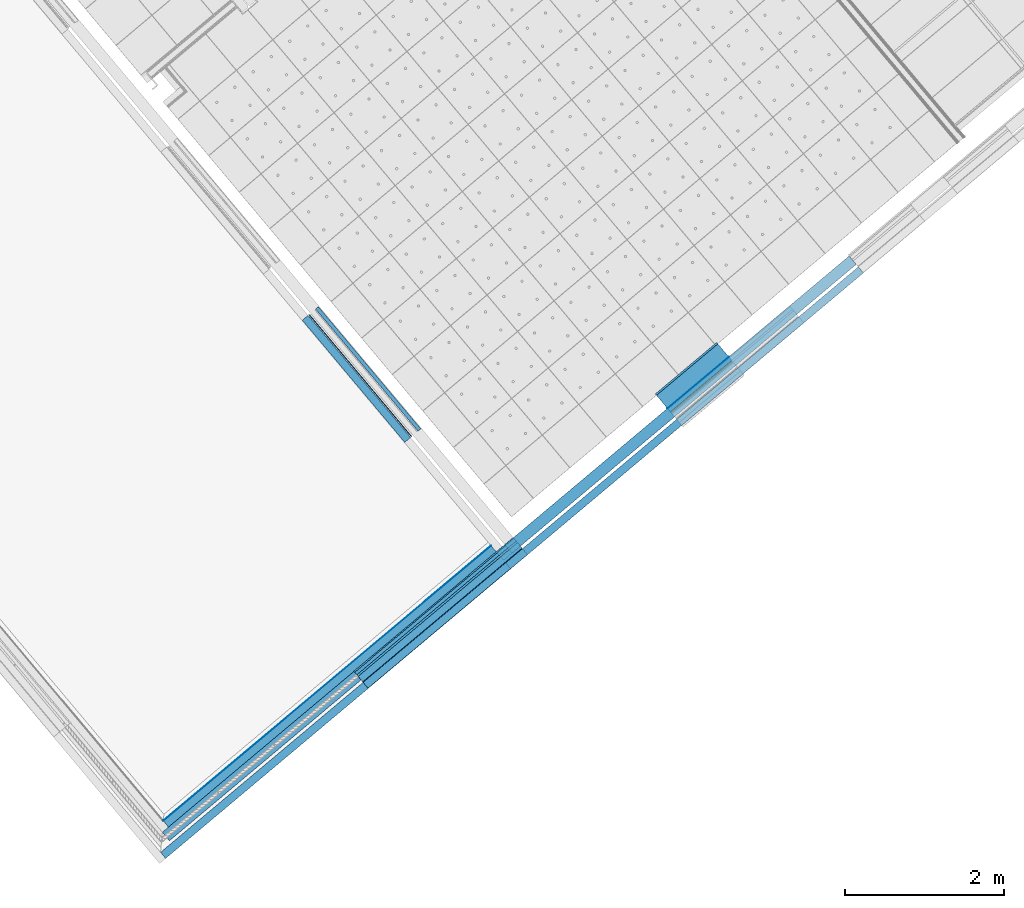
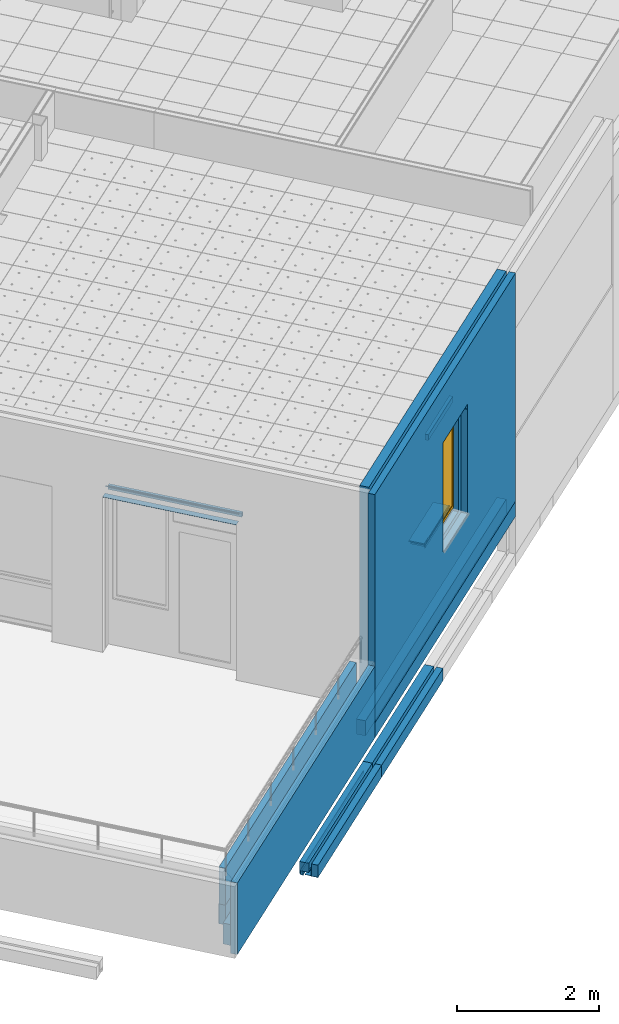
# One storey, part 50 of 321: 25 building element parts, 1 window, 1 opening, 8 elements without a shape of their own.
"""IFC2X3 building model written with IfcOpenShell, lengths in millimetres."""

from ifc_helpers import new_model, entity, si_unit, converted_unit, derived_unit, money_unit, direction, frame, origin_with_axes, place, context, subcontext, project, spatial, open_shell, faceted_brep, surface_model, material, type_object, element, fill, aggregate, save


model = new_model("IFC2X3")

# Units and contexts
model_context = context("Model", 3, precision=0.01, world=origin_with_axes(), true_north=direction((0.0, 1.0)))
plan_context = context("Plan", 3, precision=0.01, world=origin_with_axes(), true_north=direction((0.0, 1.0)))
body_context = subcontext(model_context, "Body", "Model", "MODEL_VIEW")
ifc_project = project(units=[si_unit("LENGTHUNIT", "METRE", prefix="MILLI"), si_unit("AREAUNIT", "SQUARE_METRE"), si_unit("VOLUMEUNIT", "CUBIC_METRE"), converted_unit("PLANEANGLEUNIT", "DEGREE", entity("IfcPlaneAngleMeasure", 0.0174532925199), si_unit("PLANEANGLEUNIT", "RADIAN"), dimensions=[0, 0, 0, 0, 0, 0, 0]), money_unit("EUR"), converted_unit("TIMEUNIT", "Year", entity("IfcTimeMeasure", 31556926.0), si_unit("TIMEUNIT", "SECOND"), dimensions=[0, 0, 1, 0, 0, 0, 0]), si_unit("MASSUNIT", "GRAM", prefix="KILO"), si_unit("THERMODYNAMICTEMPERATUREUNIT", "DEGREE_CELSIUS"), si_unit("LUMINOUSINTENSITYUNIT", "LUMEN"), si_unit("ENERGYUNIT", "JOULE", prefix="MEGA"), derived_unit("THERMALCONDUCTANCEUNIT", [(si_unit("POWERUNIT", "WATT"), 1), (si_unit("LENGTHUNIT", "METRE"), -1), (si_unit("THERMODYNAMICTEMPERATUREUNIT", "KELVIN"), -1)]), derived_unit("SPECIFICHEATCAPACITYUNIT", [(si_unit("ENERGYUNIT", "JOULE"), 1), (si_unit("MASSUNIT", "GRAM", prefix="KILO"), -1), (si_unit("THERMODYNAMICTEMPERATUREUNIT", "KELVIN"), -1)]), derived_unit("MASSDENSITYUNIT", [(si_unit("MASSUNIT", "GRAM", prefix="KILO"), 1), (si_unit("VOLUMEUNIT", "CUBIC_METRE"), -1)])], contexts=[model_context, plan_context])

# Site, building, storey
site_placement = place(None, origin_with_axes())
site = spatial("IfcSite", under=ifc_project, at=site_placement, Name="Fortuinstraat Woensdrecht", CompositionType="ELEMENT")
building_placement = place(site_placement, origin_with_axes())
building = spatial("IfcBuilding", under=site, at=building_placement, Name="IKC Fortuna", CompositionType="ELEMENT")
storey_placement = place(building_placement, frame((0.0, 0.0, 4000.0), z_axis=(0.0, 0.0, 1.0), x_axis=(1.0, 0.0, 0.0)))
storey = spatial("IfcBuildingStorey", under=building, at=storey_placement, Name="01 eerste verdieping", CompositionType="ELEMENT", Elevation=4000.0)

# Window
window_style = type_object("IfcWindowStyle", Name="R1 25", ConstructionType="NOTDEFINED", OperationType="SINGLE_PANEL", ParameterTakesPrecedence=False, Sizeable=False)
wall_1_placement = place(storey_placement, frame((18518.9533731, -13085.7240957, 1360.0), z_axis=(0.0, 0.0, 1.0), x_axis=(0.766044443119, 0.642787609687, 0.0)))
opening_placement = place(wall_1_placement, frame((3040.31656627, 0.0, 1157.49998868), z_axis=(0.0, 0.0, 1.0), x_axis=(1.0, 0.0, 0.0)))
window_placement = place(opening_placement, frame((-500.0, 0.0, 0.0), z_axis=(0.0, 0.0, 1.0), x_axis=(1.0, 0.0, 0.0)))
window = element("IfcWindow", 1, at=window_placement, inside=storey, type_object=window_style, Name="31_Raam_A.15", ObjectType="WINDOW", OverallHeight=1817.5, OverallWidth=1000.0, context=body_context, shape_type="SurfaceModel", body=[
    faceted_brep([(48.0, -73.0, 1769.50001132), (48.0, 0.0, 1769.50001132), (0.0, 0.0, 1769.50001132), (0.0, -73.0, 1769.50001132), (48.0, -73.0, 48.0), (48.0, 0.0, 48.0), (0.0, 0.0, 48.0), (0.0, -73.0, 48.0)], [[[0, 1, 2, 3]], [[4, 5, 1, 0]], [[1, 5, 6, 2]], [[3, 2, 6, 7]], [[0, 3, 7, 4]], [[7, 6, 5, 4]]]),
    faceted_brep([(952.0, -73.0, 48.0), (952.0, 0.0, 48.0), (1000.0, 0.0, 48.0), (1000.0, -73.0, 48.0), (952.0, -73.0, 1769.50001132), (952.0, 0.0, 1769.50001132), (1000.0, 0.0, 1769.50001132), (1000.0, -73.0, 1769.50001132)], [[[0, 1, 2, 3]], [[4, 5, 1, 0]], [[1, 5, 6, 2]], [[3, 2, 6, 7]], [[0, 3, 7, 4]], [[7, 6, 5, 4]]]),
    faceted_brep([(48.0, -73.0, 48.0), (48.0, 0.0, 48.0), (0.0, 0.0, 48.0), (0.0, -73.0, 48.0), (952.0, -73.0, 48.0), (952.0, 0.0, 48.0), (1000.0, 0.0, 48.0), (1000.0, 0.0, 0.0), (0.0, 0.0, 0.0), (0.0, -73.0, 0.0), (1000.0, -73.0, 0.0), (1000.0, -73.0, 48.0)], [[[0, 1, 2, 3]], [[4, 5, 1, 0]], [[1, 5, 6, 7, 8, 2]], [[3, 2, 8, 9]], [[0, 3, 9, 10, 11, 4]], [[11, 6, 5, 4]], [[10, 7, 6, 11]], [[9, 8, 7, 10]]]),
    faceted_brep([(952.0, -73.0, 1769.50001132), (952.0, 0.0, 1769.50001132), (1000.0, 0.0, 1769.50001132), (1000.0, -73.0, 1769.50001132), (48.0, -73.0, 1769.50001132), (48.0, 0.0, 1769.50001132), (0.0, 0.0, 1769.50001132), (0.0, 0.0, 1817.50001132), (1000.0, 0.0, 1817.50001132), (1000.0, -73.0, 1817.50001132), (0.0, -73.0, 1817.50001132), (0.0, -73.0, 1769.50001132)], [[[0, 1, 2, 3]], [[4, 5, 1, 0]], [[1, 5, 6, 7, 8, 2]], [[3, 2, 8, 9]], [[0, 3, 9, 10, 11, 4]], [[11, 6, 5, 4]], [[10, 7, 6, 11]], [[9, 8, 7, 10]]]),
    surface_model("IfcShellBasedSurfaceModel", [(48.0, -62.0, 48.0), (952.0, -62.0, 48.0), (952.0, -62.0, 1769.50001132), (48.0, -62.0, 1769.50001132)], [open_shell([[[0, 1, 2, 3]]])]),
    surface_model("IfcShellBasedSurfaceModel", [(48.0, -42.0, 48.0), (48.0, -42.0, 1769.50001132), (952.0, -42.0, 1769.50001132), (952.0, -42.0, 48.0)], [open_shell([[[0, 1, 2, 3]]])]),
])

# Wall, opening
wall_type = type_object("IfcWallType", Name="21 MW hoofd 280", PredefinedType="NOTDEFINED")
wall_1 = element("IfcWall", 2, at=wall_1_placement, inside=storey, type_object=wall_type, Name="21_Wand_Vezel Cement Plaat")
opening = element("IfcOpeningElement", 3, at=opening_placement, cuts=wall_1, Name="31_Raam_A.15", context=body_context, shape_type="Brep", body=[
    faceted_brep([(505.0, -280.0, 1817.50001132), (505.0, -280.0, -70.0), (505.0, 560.0, -70.0), (505.0, 560.0, 1817.50001132), (-505.0, -280.0, 1817.50001132), (-505.0, -280.0, -70.0), (-505.0, 560.0, -70.0), (-505.0, 560.0, 1817.50001132)], [[[0, 1, 2, 3]], [[0, 4, 5, 1]], [[1, 5, 6, 2]], [[3, 2, 6, 7]], [[4, 0, 3, 7]], [[5, 4, 7, 6]]]),
])

fill(opening, window)

# Building element part
ifc_material_1 = material(Name="ALG - ISOLATIE")
building_element_part_1_placement = place(wall_1_placement, origin_with_axes())
building_element_part_1 = element("IfcBuildingElementPart", 4, at=building_element_part_1_placement, material=ifc_material_1, Name="ALG - ISOLATIE", context=body_context, shape_type="Brep", body=[
    faceted_brep([(-140.0, 0.0, 0.0), (-140.0, 0.0, 3930.0), (5525.31656627, 0.0, 3930.0), (5525.31656627, 0.0, 0.0), (2535.31656627, 0.0, 1087.49998868), (3545.31656627, 0.0, 1087.49998868), (3545.31656627, 0.0, 2975.0), (2535.31656627, 0.0, 2975.0), (-140.0, -140.0, 0.0), (-140.0, -140.0, 3930.0), (5525.31656627, -140.0, 3930.0), (5525.31656627, -140.0, 0.0), (2535.31656627, -140.0, 1087.49998868), (3545.31656627, -140.0, 1087.49998868), (3545.31656627, -140.0, 2975.0), (2535.31656627, -140.0, 2975.0)], [[[0, 1, 2, 3], [4, 5, 6, 7]], [[1, 0, 8, 9]], [[1, 9, 10, 2]], [[10, 11, 3, 2]], [[8, 0, 3, 11]], [[12, 13, 5, 4]], [[13, 14, 6, 5]], [[14, 15, 7, 6]], [[15, 12, 4, 7]], [[8, 11, 10, 9], [12, 15, 14, 13]]]),
])

ifc_material_2 = material(Name="Steen - Baksteen Hoofd")
building_element_part_2_placement = place(wall_1_placement, origin_with_axes())
building_element_part_2 = element("IfcBuildingElementPart", 5, at=building_element_part_2_placement, material=ifc_material_2, Name="Steen - Baksteen Hoofd", context=body_context, shape_type="Brep", body=[
    faceted_brep([(3545.31656627, -269.999999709, 2880.0), (3545.31656627, -269.999999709, 2884.0), (3684.99998867, -269.999999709, 2884.0), (3684.99998867, -269.999999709, 2880.0), (3545.31656627, -280.0, 1087.49998868), (3545.31656627, -280.0, 2975.0), (3545.31656627, -180.0, 2975.0), (3545.31656627, -179.999999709, 2902.0), (3545.31656627, -183.514718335, 2893.51471863), (3545.31656627, -191.999999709, 2890.0), (3545.31656627, -263.999999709, 2890.0), (3545.31656627, -268.242640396, 2888.24264069), (3545.31656627, -180.0, 2880.0), (3545.31656627, -180.0, 1087.49998868), (3684.99998867, -268.242640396, 2888.24264069), (3684.99998867, -263.999999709, 2890.0), (3684.99998867, -191.999999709, 2890.0), (3684.99998867, -183.514718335, 2893.51471863), (3684.99998867, -179.999999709, 2902.0), (3684.99998867, -180.0, 2880.0), (-279.999987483, -280.0, 3930.0), (-280.000004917, -280.0, 0.0), (5525.31656627, -280.0, 0.0), (5525.31656627, -280.0, 3930.0), (2535.31656627, -280.0, 1087.49998868), (2535.31656627, -280.0, 2975.0), (2535.31656627, -180.0, 2975.0), (5525.31656627, -180.0, 0.0), (-280.000004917, -180.0, 0.0), (-279.999987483, -180.0, 3930.0), (5525.31656627, -180.0, 3930.0), (2535.31656627, -179.999999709, 2902.0), (2396.99998867, -179.999999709, 2902.0), (2396.99998867, -180.0, 2880.0), (2535.31656627, -180.0, 2880.0), (2535.31656627, -180.0, 1087.49998868), (2535.31656627, -269.999999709, 2880.0), (2535.31656627, -269.999999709, 2884.0), (2535.31656627, -268.242640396, 2888.24264069), (2535.31656627, -263.999999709, 2890.0), (2535.31656627, -191.999999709, 2890.0), (2535.31656627, -183.514718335, 2893.51471863), (2396.99998867, -183.514718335, 2893.51471863), (2396.99998867, -268.242640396, 2888.24264069), (2396.99998867, -269.999999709, 2884.0), (2396.99998867, -269.999999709, 2880.0), (2396.99998867, -191.999999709, 2890.0), (2396.99998867, -263.999999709, 2890.0)], [[[0, 1, 2, 3]], [[4, 5, 6, 7, 8, 9, 10, 11, 1, 0, 12, 13]], [[1, 11, 14, 2]], [[15, 16, 17, 18, 19, 3, 2, 14]], [[12, 0, 3, 19]], [[20, 21, 22, 23], [24, 25, 5, 4]], [[5, 25, 26, 6]], [[27, 28, 29, 30], [13, 12, 19, 18, 7, 6, 26, 31, 32, 33, 34, 35]], [[8, 7, 18, 17]], [[9, 8, 17, 16]], [[10, 9, 16, 15]], [[11, 10, 15, 14]], [[24, 4, 13, 35]], [[20, 29, 28, 21]], [[22, 21, 28, 27]], [[23, 22, 27, 30]], [[30, 29, 20, 23]], [[25, 24, 35, 34, 36, 37, 38, 39, 40, 41, 31, 26]], [[31, 41, 42, 32]], [[43, 44, 45, 33, 32, 42, 46, 47]], [[36, 34, 33, 45]], [[37, 36, 45, 44]], [[38, 37, 44, 43]], [[39, 38, 43, 47]], [[40, 39, 47, 46]], [[41, 40, 46, 42]]]),
])

aggregate(wall_1, [building_element_part_1, building_element_part_2])

# Covering, building element parts
covering_type_1 = type_object("IfcCoveringType", Name="41 Waterslag MW 545 x 90", PredefinedType="NOTDEFINED")
covering_1_placement = place(storey_placement, frame((20551.1088054, -11563.3002421, 2522.49999925), z_axis=(0.0, 0.0, 1.0), x_axis=(0.766044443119, 0.642787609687, 0.0)))
covering_1 = element("IfcCovering", 6, at=covering_1_placement, inside=storey, type_object=covering_type_1, Name="41_Afwerking_Waterslag", PredefinedType="NOTDEFINED")
ifc_material_3 = material(Name="Steen - Natuursteen AFW")
building_element_part_3_placement = place(covering_1_placement, origin_with_axes())
building_element_part_3 = element("IfcBuildingElementPart", 7, at=building_element_part_3_placement, material=ifc_material_3, Name="Steen - Natuursteen AFW", context=body_context, shape_type="Brep", body=[
    faceted_brep([(1010.0, 353.999999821, -20.0000025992), (1010.0, 140.0, -20.0), (0.0, 140.0, -20.0), (0.0, 353.999999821, -20.0000025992), (1010.0, 378.0, -20.0), (1010.0, 378.0, 0.0), (1010.0, 140.0, 0.0), (0.0, 140.0, 0.0), (0.0, 378.0, 0.0), (0.0, 378.0, -20.0)], [[[0, 1, 2, 3]], [[0, 4, 5, 6, 1]], [[1, 6, 7, 2]], [[3, 2, 7, 8, 9]], [[4, 0, 3, 9]], [[5, 4, 9, 8]], [[6, 5, 8, 7]]]),
])
ifc_material_4 = material(Name="Cement")
building_element_part_4_placement = place(covering_1_placement, origin_with_axes())
building_element_part_4 = element("IfcBuildingElementPart", 8, at=building_element_part_4_placement, material=ifc_material_4, Name="Cement", context=body_context, shape_type="Brep", body=[
    faceted_brep([(1010.0, 353.999999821, -50.0000002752), (1010.0, 140.000000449, -50.0000002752), (0.0, 140.000000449, -50.0000002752), (0.0, 353.999999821, -50.0000002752), (1010.0, 353.999999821, -20.0000025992), (1010.0, 140.000000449, -19.9999992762), (0.0, 140.000000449, -19.9999992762), (0.0, 353.999999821, -20.0000025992)], [[[0, 1, 2, 3]], [[0, 4, 5, 1]], [[1, 5, 6, 2]], [[3, 2, 6, 7]], [[4, 0, 3, 7]], [[5, 4, 7, 6]]]),
])
ifc_material_5 = material(Name="Kit")
building_element_part_5_placement = place(covering_1_placement, origin_with_axes())
building_element_part_5 = element("IfcBuildingElementPart", 9, at=building_element_part_5_placement, material=ifc_material_5, Name="Kit", context=body_context, shape_type="Brep", body=[
    faceted_brep([(1010.0, 140.000000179, 2.53320919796e-07), (1010.0, 140.000000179, -19.9999998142), (0.0, 140.000000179, -19.9999998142), (0.0, 140.000000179, 2.53320919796e-07), (1010.0, 131.000000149, 2.53320919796e-07), (1010.0, 131.000000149, -4.99999976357), (1010.0, 131.000000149, -19.9999998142), (0.0, 131.000000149, -19.9999998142), (0.0, 131.000000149, -4.99999976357), (0.0, 131.000000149, 2.53320919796e-07)], [[[0, 1, 2, 3]], [[0, 4, 5, 6, 1]], [[1, 6, 7, 2]], [[3, 2, 7, 8, 9]], [[4, 0, 3, 9]], [[5, 4, 9, 8]], [[6, 5, 8, 7]]]),
])
ifc_material_6 = material(Name="Isolatie - PUR gespoten")
building_element_part_6_placement = place(covering_1_placement, origin_with_axes())
building_element_part_6 = element("IfcBuildingElementPart", 10, at=building_element_part_6_placement, material=ifc_material_6, Name="Isolatie - PUR gespoten", context=body_context, shape_type="Brep", body=[
    faceted_brep([(1010.0, 140.000000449, -50.0000002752), (1010.0, 139.999999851, -75.0), (0.0, 139.999999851, -75.0), (0.0, 140.000000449, -50.0000002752), (1010.0, 139.999999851, -19.999999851), (1010.0, 131.000000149, -19.999999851), (1010.0, 131.000000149, -75.0), (0.0, 131.000000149, -75.0), (0.0, 131.000000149, -19.999999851), (0.0, 139.999999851, -19.999999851)], [[[0, 1, 2, 3]], [[0, 4, 5, 6, 1]], [[1, 6, 7, 2]], [[3, 2, 7, 8, 9]], [[4, 0, 3, 9]], [[5, 4, 9, 8]], [[6, 5, 8, 7]]]),
])
ifc_material_7 = material(Name="Hout AFW")
building_element_part_7_placement = place(covering_1_placement, origin_with_axes())
building_element_part_7 = element("IfcBuildingElementPart", 11, at=building_element_part_7_placement, material=ifc_material_7, Name="Hout AFW", context=body_context, shape_type="Brep", body=[
    faceted_brep([(1010.0, 131.0, -75.0), (1010.0, 83.0, -75.0), (0.0, 83.0, -75.0), (0.0, 131.0, -75.0), (1010.0, 131.0, -5.0), (1010.0, 83.0, -5.0), (1010.0, 82.9963036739, -16.4250305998), (1010.0, 82.9963036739, -16.8314231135), (0.0, 82.9963036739, -16.8314231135), (0.0, 82.9963036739, -16.4250305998), (0.0, 83.0, -5.0), (0.0, 131.0, -5.0)], [[[0, 1, 2, 3]], [[0, 4, 5, 6, 7, 1]], [[1, 7, 8, 2]], [[3, 2, 8, 9, 10, 11]], [[4, 0, 3, 11]], [[5, 4, 11, 10]], [[6, 5, 10, 9]], [[7, 6, 9, 8]]]),
])
aggregate(covering_1, [building_element_part_3, building_element_part_4, building_element_part_5, building_element_part_6, building_element_part_7])

covering_type_2 = type_object("IfcCoveringType", Name="41 Rollaag 280 x 210", PredefinedType="NOTDEFINED")
covering_2_placement = place(storey_placement, frame((20551.1088054, -11563.3002421, 237.5), z_axis=(0.0, 0.0, 1.0), x_axis=(-0.766044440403, -0.642787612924, 0.0)))
covering_2 = element("IfcCovering", 12, at=covering_2_placement, inside=storey, type_object=covering_type_2, Name="41_Afwerking_Rollaag", PredefinedType="NOTDEFINED")
ifc_material_8 = material(Name="Steen - Baksteen Accent Rollaag")
building_element_part_8_placement = place(covering_2_placement, origin_with_axes())
building_element_part_8 = element("IfcBuildingElementPart", 13, at=building_element_part_8_placement, material=ifc_material_8, Name="Steen - Baksteen Accent Rollaag", context=body_context, shape_type="Brep", body=[
    faceted_brep([(0.0, 40.0, 2.49999999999), (0.0, 128.934515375, 2.49999999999), (0.0, 128.934515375, 6.5), (0.0, 127.177156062, 10.7426406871), (0.0, 122.934515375, 12.5), (0.0, 50.9345153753, 12.5), (0.0, 42.449234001, 16.0147186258), (0.0, 40.0, 21.9276925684), (0.0, 40.0, 210.0), (0.0, 140.0, 210.0), (0.0, 140.0, 0.0), (0.0, 40.0, 0.0), (138.316577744, 40.0, 2.49999999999), (138.31657812, 128.934514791, 2.49999999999), (138.31657812, 128.934514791, 6.5), (138.316578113, 127.177155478, 10.7426406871), (138.316578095, 122.934514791, 12.5), (138.31657779, 50.9345147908, 12.5), (138.316577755, 42.4492334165, 16.0147186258), (138.316577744, 40.0, 21.9276911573), (2535.31656627, 40.0, 0.0), (2535.31656627, 40.0, 210.0), (2535.31656627, 140.0, 210.0), (2535.31656627, 140.0, 0.0)], [[[0, 1, 2, 3, 4, 5, 6, 7, 8, 9, 10, 11]], [[1, 0, 12, 13]], [[2, 1, 13, 14]], [[3, 2, 14, 15]], [[4, 3, 15, 16]], [[5, 4, 16, 17]], [[6, 5, 17, 18]], [[7, 6, 18, 19]], [[12, 0, 11, 20, 21, 8, 7, 19]], [[8, 21, 22, 9]], [[9, 22, 23, 10]], [[10, 23, 20, 11]], [[12, 19, 18, 17, 16, 15, 14, 13]], [[21, 20, 23, 22]]]),
])
building_element_part_9_placement = place(covering_2_placement, origin_with_axes())
building_element_part_9 = element("IfcBuildingElementPart", 14, at=building_element_part_9_placement, material=ifc_material_1, Name="ALG - ISOLATIE", context=body_context, shape_type="Brep", body=[
    faceted_brep([(0.0, 0.0, 0.0), (2535.31656627, 0.0, 0.0), (2535.31656627, -140.0, 0.0), (0.0, -140.0, 0.0), (0.0, 0.0, 210.0), (2535.31656627, 0.0, 210.0), (2535.31656627, -140.0, 210.0), (0.0, -140.0, 210.0)], [[[0, 1, 2, 3]], [[4, 5, 1, 0]], [[2, 1, 5, 6]], [[3, 2, 6, 7]], [[4, 0, 3, 7]], [[7, 6, 5, 4]]]),
])
aggregate(covering_2, [building_element_part_8, building_element_part_9])

covering_type_3 = type_object("IfcCoveringType", Name="41 Latei MW rollaag 280 x 227", PredefinedType="NOTDEFINED")
covering_3_placement = place(storey_placement, frame((18608.9436387, -13192.9703172, 237.5), z_axis=(0.0, 0.0, 1.0), x_axis=(-0.766044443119, -0.642787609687, 0.0)))
covering_3 = element("IfcCovering", 15, at=covering_3_placement, inside=storey, type_object=covering_type_3, Name="41_Afwerking_Latei + rollaag", PredefinedType="NOTDEFINED")
ifc_material_9 = material(Name="Metaal - Staal C")
building_element_part_10_placement = place(covering_3_placement, origin_with_axes())
building_element_part_10 = element("IfcBuildingElementPart", 16, at=building_element_part_10_placement, material=ifc_material_9, Name="Metaal - Staal C", context=body_context, shape_type="Brep", body=[
    faceted_brep([(287.000011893, 32.0, 4.0), (287.000011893, 32.0, 105.0), (0.0, 32.0, 105.0), (0.0, 32.0, 4.0), (287.000011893, 36.6213203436, 2.49999999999), (287.000011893, 36.0000000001, 3.99999999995), (287.000011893, 36.0000000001, 106.530733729), (287.000011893, 28.9345153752, 113.654953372), (287.000011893, 28.9345153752, 108.065484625), (287.000011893, 32.0, 2.49999999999), (2573.00001189, 28.9345153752, 108.065484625), (2573.00001189, 32.0, 105.0), (2622.21786802, 32.0, 105.0), (2622.21786802, 18.0000000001, 119.0), (0.0, 18.0000000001, 119.0), (0.0, 136.0, -4.07767729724), (0.0, 135.215535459, -8.0), (0.0, 115.215535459, -4.0), (0.0, 36.0, -4.0), (0.0, 33.1715728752, -2.82842712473), (0.0, 32.0, 0.0), (0.0, 20.8284271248, 121.828427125), (0.0, 36.0000000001, 106.530733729), (0.0, 36.0000000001, 3.99999999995), (0.0, 37.1715728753, 1.17157287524), (0.0, 40.0, 0.0), (0.0, 115.609685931, 0.0), (2622.21786802, 32.0, 0.0), (2622.21786802, 32.0, 4.0), (2573.00001189, 32.0, 4.0), (2573.00001189, 32.0, 2.49999999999), (2573.00001189, 36.6213203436, 2.49999999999), (2573.00001189, 36.0000000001, 3.99999999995), (2622.21786802, 36.0000000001, 3.99999999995), (2622.21786802, 37.1715728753, 1.17157287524), (2622.21786802, 20.8284271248, 121.828427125), (2622.21786802, 36.0000000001, 106.530733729), (2573.00001189, 36.0000000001, 106.530733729), (2573.00001189, 28.9345153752, 113.654953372), (2622.21786802, 115.215535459, -4.0), (2622.21786802, 135.215535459, -8.0), (2622.21786802, 136.0, -4.07767729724), (2622.21786802, 115.609685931, 0.0), (2622.21786802, 40.0, 0.0), (2622.21786802, 33.1715728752, -2.82842712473), (2622.21786802, 36.0, -4.0)], [[[0, 1, 2, 3]], [[4, 5, 6, 7, 8, 1, 0, 9]], [[10, 11, 12, 13, 14, 2, 1, 8]], [[15, 16, 17, 18, 19, 20, 3, 2, 14, 21, 22, 23, 24, 25, 26]], [[9, 0, 3, 20, 27, 28, 29, 30]], [[31, 32, 33, 34, 24, 23, 5, 4]], [[6, 5, 23, 22]], [[7, 6, 22, 21, 35, 36, 37, 38]], [[7, 38, 10, 8]], [[31, 4, 9, 30]], [[32, 31, 30, 29, 11, 10, 38, 37]], [[11, 29, 28, 12]], [[39, 40, 41, 42, 43, 34, 33, 36, 35, 13, 12, 28, 27, 44, 45]], [[14, 13, 35, 21]], [[15, 41, 40, 16]], [[16, 40, 39, 17]], [[17, 39, 45, 18]], [[18, 45, 44, 19]], [[19, 44, 27, 20]], [[24, 34, 43, 25]], [[25, 43, 42, 26]], [[26, 42, 41, 15]], [[32, 37, 36, 33]]]),
])
building_element_part_11_placement = place(covering_3_placement, origin_with_axes())
building_element_part_11 = element("IfcBuildingElementPart", 17, at=building_element_part_11_placement, material=ifc_material_8, Name="Steen - Baksteen Accent Rollaag", context=body_context, shape_type="Brep", body=[
    faceted_brep([(0.0, 40.0, 0.0), (2622.21786802, 40.0, 0.0), (2622.21786802, 40.0, 210.0), (0.0, 40.0, 210.0), (2573.00001189, 40.0, 2.49999999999), (287.000011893, 40.0, 2.49999999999), (287.000011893, 40.0, 21.9276925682), (2573.00001189, 40.0, 21.9276925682), (0.0, 115.609685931, 0.0), (2622.21786802, 115.609685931, 0.0), (2622.21786802, 140.0, 0.0), (2622.21786802, 140.0, 210.0), (0.0, 140.0, 210.0), (0.0, 140.0, 0.0), (2573.00001189, 128.934515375, 2.49999999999), (287.000011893, 128.934515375, 2.49999999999), (287.000011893, 128.934515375, 6.5), (287.000011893, 127.177156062, 10.7426406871), (287.000011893, 122.934515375, 12.5), (287.000011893, 50.9345153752, 12.5), (287.000011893, 42.449234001, 16.0147186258), (2573.00001189, 42.449234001, 16.0147186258), (2573.00001189, 50.9345153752, 12.5), (2573.00001189, 122.934515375, 12.5), (2573.00001189, 127.177156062, 10.7426406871), (2573.00001189, 128.934515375, 6.5)], [[[0, 1, 2, 3], [4, 5, 6, 7]], [[8, 9, 1, 0]], [[10, 11, 2, 1, 9]], [[3, 2, 11, 12]], [[3, 12, 13, 8, 0]], [[5, 4, 14, 15]], [[6, 5, 15, 16, 17, 18, 19, 20]], [[7, 6, 20, 21]], [[4, 7, 21, 22, 23, 24, 25, 14]], [[13, 10, 9, 8]], [[12, 11, 10, 13]], [[25, 16, 15, 14]], [[24, 17, 16, 25]], [[23, 18, 17, 24]], [[22, 19, 18, 23]], [[21, 20, 19, 22]]]),
])
ifc_material_10 = material(Name="Metaal - Staal AFW")
building_element_part_12_placement = place(covering_3_placement, origin_with_axes())
building_element_part_12 = element("IfcBuildingElementPart", 18, at=building_element_part_12_placement, material=ifc_material_10, Name="Metaal - Staal AFW", context=body_context, shape_type="Brep", body=[
    faceted_brep([(2573.00001189, 28.9345153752, 4.00000000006), (287.000011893, 28.9345153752, 4.00000000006), (287.000011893, 32.0, 4.0), (0.0, 32.0, 4.0), (0.0, -58.0, 4.0), (2622.21786802, -58.0, 4.0), (2622.21786802, 32.0, 4.0), (2573.00001189, 32.0, 4.0), (2573.00001189, 28.9345153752, 2.49999999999), (287.000011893, 28.9345153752, 2.49999999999), (287.000011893, 32.0, 2.49999999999), (2573.00001189, 32.0, 2.49999999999), (2622.21786802, 32.0, 0.0), (0.0, 32.0, 0.0), (0.0, -58.0, 0.0), (2622.21786802, -58.0, 0.0)], [[[0, 1, 2, 3, 4, 5, 6, 7]], [[1, 0, 8, 9]], [[10, 2, 1, 9]], [[11, 7, 6, 12, 13, 3, 2, 10]], [[4, 3, 13, 14]], [[14, 15, 5, 4]], [[12, 6, 5, 15]], [[0, 7, 11, 8]], [[11, 10, 9, 8]], [[13, 12, 15, 14]]]),
])
building_element_part_13_placement = place(covering_3_placement, origin_with_axes())
building_element_part_13 = element("IfcBuildingElementPart", 19, at=building_element_part_13_placement, material=ifc_material_1, Name="ALG - ISOLATIE", context=body_context, shape_type="Brep", body=[
    faceted_brep([(0.0, -140.0, 53.0), (2622.21786802, -140.0, 53.0), (2622.21786802, -140.0, 210.0), (0.0, -140.0, 210.0), (0.0, -83.9999988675, 53.0000013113), (2622.21786802, -83.9999988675, 53.0000013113), (2622.21786802, 0.0, 53.0), (2622.21786802, 0.0, 210.0), (0.0, 0.0, 210.0), (0.0, 0.0, 53.0)], [[[0, 1, 2, 3]], [[4, 5, 1, 0]], [[2, 1, 5, 6, 7]], [[3, 2, 7, 8]], [[4, 0, 3, 8, 9]], [[9, 6, 5, 4]], [[8, 7, 6, 9]]]),
])
building_element_part_14_placement = place(covering_3_placement, origin_with_axes())
building_element_part_14 = element("IfcBuildingElementPart", 20, at=building_element_part_14_placement, material=ifc_material_7, Name="Hout AFW", context=body_context, shape_type="Brep", body=[
    faceted_brep([(0.0, -127.999998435, 53.0000013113), (2622.21786802, -127.999998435, 53.0000013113), (2622.21786802, -83.9999988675, 53.0000013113), (0.0, -83.9999988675, 53.0000013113), (0.0, -127.999998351, -1.28576260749e-07), (2622.21786802, -127.999998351, -1.28576260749e-07), (2622.21786802, -127.999998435, -17.0), (2622.21786802, -83.9999988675, -17.0), (0.0, -83.9999988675, -17.0), (0.0, -127.999998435, -17.0)], [[[0, 1, 2, 3]], [[4, 5, 1, 0]], [[2, 1, 5, 6, 7]], [[3, 2, 7, 8]], [[4, 0, 3, 8, 9]], [[9, 6, 5, 4]], [[8, 7, 6, 9]]]),
])
building_element_part_15_placement = place(covering_3_placement, origin_with_axes())
building_element_part_15 = element("IfcBuildingElementPart", 21, at=building_element_part_15_placement, material=ifc_material_6, Name="Isolatie - PUR gespoten", context=body_context, shape_type="Brep", body=[
    faceted_brep([(0.0, -139.999999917, 53.0000002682), (2622.21786802, -139.999999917, 53.0000002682), (2622.21786802, -127.999998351, 53.0000013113), (0.0, -127.999998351, 53.0000013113), (0.0, -139.999999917, -1.28576260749e-07), (2622.21786802, -139.999999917, -1.28576260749e-07), (2622.21786802, -127.999998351, -1.28576260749e-07), (0.0, -127.999998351, -1.28576260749e-07)], [[[0, 1, 2, 3]], [[4, 5, 1, 0]], [[2, 1, 5, 6]], [[3, 2, 6, 7]], [[4, 0, 3, 7]], [[7, 6, 5, 4]]]),
])
aggregate(covering_3, [building_element_part_10, building_element_part_11, building_element_part_12, building_element_part_13, building_element_part_14, building_element_part_15])

# Wall, building element parts
wall_2_placement = place(storey_placement, frame((22931.5719565, -9748.61151215, 1100.0), z_axis=(0.0, 0.0, 1.0), x_axis=(-0.766044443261, -0.642787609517, 0.0)))
wall_2 = element("IfcWall", 22, at=wall_2_placement, inside=storey, type_object=wall_type, Name="21_Wand_Vezel Cement Plaat")
building_element_part_16_placement = place(wall_2_placement, origin_with_axes())
building_element_part_16 = element("IfcBuildingElementPart", 23, at=building_element_part_16_placement, material=ifc_material_2, Name="Steen - Baksteen Hoofd", context=body_context, shape_type="Brep", body=[
    faceted_brep([(5805.31656629, -100.0, 259.999998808), (5805.31656629, 0.0, 259.999998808), (0.0, 0.0, 259.999998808), (0.0, -100.0, 259.999998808), (5805.31656629, -100.0, 0.0), (5805.31656629, 0.0, 0.0), (0.0, 0.0, 0.0), (0.0, -100.0, 0.0)], [[[0, 1, 2, 3]], [[0, 4, 5, 1]], [[1, 5, 6, 2]], [[3, 2, 6, 7]], [[4, 0, 3, 7]], [[5, 4, 7, 6]]]),
])
building_element_part_17_placement = place(wall_2_placement, origin_with_axes())
building_element_part_17 = element("IfcBuildingElementPart", 24, at=building_element_part_17_placement, material=ifc_material_1, Name="ALG - ISOLATIE", context=body_context, shape_type="Brep", body=[
    faceted_brep([(5805.31656629, -280.0, 259.999998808), (5805.31656629, -140.0, 259.999998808), (0.0, -140.0, 259.999998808), (0.0, -280.0, 259.999998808), (5805.31656629, -280.0, 0.0), (5805.31656629, -140.0, 0.0), (0.0, -140.0, 0.0), (0.0, -280.0, 0.0)], [[[0, 1, 2, 3]], [[0, 4, 5, 1]], [[1, 5, 6, 2]], [[3, 2, 6, 7]], [[4, 0, 3, 7]], [[5, 4, 7, 6]]]),
])
aggregate(wall_2, [building_element_part_16, building_element_part_17])

# Covering, building element part
covering_type_4 = type_object("IfcCoveringType", Name="41 Latei MW 275 x 142", PredefinedType="NOTDEFINED")
covering_4_placement = place(storey_placement, frame((20551.1088054, -11563.3002421, 4335.0), z_axis=(0.0, 0.0, 1.0), x_axis=(0.766044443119, 0.642787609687, 0.0)))
covering_4 = element("IfcCovering", 25, at=covering_4_placement, inside=storey, type_object=covering_type_4, Name="41_Afwerking_Waterslag", PredefinedType="NOTDEFINED")
building_element_part_18_placement = place(covering_4_placement, origin_with_axes())
building_element_part_18 = element("IfcBuildingElementPart", 26, at=building_element_part_18_placement, material=ifc_material_7, Name="Hout AFW", context=body_context, shape_type="Brep", body=[
    faceted_brep([(0.0, 135.0, 80.0), (1010.0, 135.0, 80.0), (1010.0, 135.0, -20.0), (0.0, 135.0, -20.0), (0.0, 81.0, 80.0), (1010.0, 81.0, 80.0), (1010.0, 81.0, 0.0), (1010.0, 81.0, -20.0), (0.0, 81.0, -20.0), (0.0, 81.0, 0.0)], [[[0, 1, 2, 3]], [[4, 5, 1, 0]], [[2, 1, 5, 6, 7]], [[3, 2, 7, 8]], [[4, 0, 3, 8, 9]], [[9, 6, 5, 4]], [[8, 7, 6, 9]]]),
])
aggregate(covering_4, [building_element_part_18])

# Covering, building element parts
covering_type_5 = type_object("IfcCoveringType", Name="41 Latei MW zw 269 x 142", PredefinedType="NOTDEFINED")
covering_5_placement = place(storey_placement, frame((15962.6863447, -10257.0850168, 4272.5), z_axis=(0.0, 0.0, 1.0), x_axis=(0.642787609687, -0.766044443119, 0.0)))
covering_5 = element("IfcCovering", 27, at=covering_5_placement, inside=storey, type_object=covering_type_5, Name="41_Afwerking_MW latei", PredefinedType="NOTDEFINED")
building_element_part_19_placement = place(covering_5_placement, origin_with_axes())
building_element_part_19 = element("IfcBuildingElementPart", 28, at=building_element_part_19_placement, material=ifc_material_7, Name="Hout AFW", context=body_context, shape_type="Brep", body=[
    faceted_brep([(0.0, 129.0, -17.0), (2010.0, 129.0, -17.0), (2010.0, 83.0, -17.0), (0.0, 83.0, -17.0), (0.0, 129.0, 53.0), (2010.0, 129.0, 53.0), (2010.0, 83.0, 53.0), (0.0, 83.0, 53.0)], [[[0, 1, 2, 3]], [[4, 5, 1, 0]], [[2, 1, 5, 6]], [[3, 2, 6, 7]], [[4, 0, 3, 7]], [[7, 6, 5, 4]]]),
])
building_element_part_20_placement = place(covering_5_placement, origin_with_axes())
building_element_part_20 = element("IfcBuildingElementPart", 29, at=building_element_part_20_placement, material=ifc_material_10, Name="Metaal - Staal AFW", context=body_context, shape_type="Brep", body=[
    faceted_brep([(2010.0, -40.0000113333, -3.99999994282), (2010.0, -40.0000113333, 0.0), (2010.0, -115.609685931, 0.0), (2010.0, -136.000000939, -4.07767792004), (2010.0, -135.215535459, -8.0), (2010.0, -115.215535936, -3.99999886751), (0.0, -40.0000113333, 0.0), (0.0, -40.0000113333, -3.99999994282), (0.0, -115.609685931, 0.0), (0.0, -136.000000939, -4.07767792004), (0.0, -135.215535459, -8.0), (0.0, -115.215535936, -3.99999886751)], [[[0, 1, 2, 3, 4, 5]], [[6, 1, 0, 7]], [[1, 6, 8, 2]], [[9, 3, 2, 8]], [[10, 4, 3, 9]], [[11, 5, 4, 10]], [[7, 0, 5, 11]], [[6, 7, 11, 10, 9, 8]]]),
    faceted_brep([(0.0, -30.0000113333, 112.580599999), (2010.0, -30.0000113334, 112.580599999), (2010.0, -20.8284271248, 121.828427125), (0.0, -20.8284271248, 121.828427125), (2010.0, -30.0000113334, 106.999988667), (0.0, -30.0000113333, 106.999988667), (2010.0, -18.0000000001, 119.0), (0.0, -18.0000000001, 119.0)], [[[0, 1, 2, 3]], [[4, 1, 0, 5]], [[1, 4, 6, 2]], [[3, 2, 6, 7]], [[5, 0, 3, 7]], [[4, 5, 7, 6]]]),
])
aggregate(covering_5, [building_element_part_19, building_element_part_20])

covering_type_6 = type_object("IfcCoveringType", Name="21 Dakrand terras 386 x 1235", PredefinedType="CLADDING")
covering_6_placement = place(storey_placement, frame((14095.0467052, -16797.8225487, 1300.0), z_axis=(0.0, 0.0, 1.0), x_axis=(0.766044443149, 0.64278760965, 0.0)))
covering_6 = element("IfcCovering", 30, at=covering_6_placement, inside=storey, type_object=covering_type_6, Name="21_Wandafwerking_Dakrand", PredefinedType="CLADDING")
ifc_material_11 = material(Name="Membraan - waterdicht")
building_element_part_21_placement = place(covering_6_placement, origin_with_axes())
building_element_part_21 = element("IfcBuildingElementPart", 31, at=building_element_part_21_placement, material=ifc_material_11, Name="Membraan - waterdicht", context=body_context, shape_type="Brep", body=[
    faceted_brep([(5495.00001133, 105.999998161, 399.999998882), (105.999998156, 105.999998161, 399.999998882), (105.999998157, 100.00000295, 399.999998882), (5495.00001133, 100.00000295, 399.999998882), (105.999998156, 105.999998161, 60.0), (5495.00001133, 105.999998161, 60.0), (105.999998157, 100.00000295, 60.0), (5495.00001133, 100.00000295, 60.0)], [[[0, 1, 2, 3]], [[4, 1, 0, 5]], [[6, 2, 1, 4]], [[3, 2, 6, 7]], [[3, 7, 5, 0]], [[7, 6, 4, 5]]]),
])
ifc_material_12 = material(Name="Steen - Cellenbeton")
building_element_part_22_placement = place(covering_6_placement, origin_with_axes())
building_element_part_22 = element("IfcBuildingElementPart", 32, at=building_element_part_22_placement, material=ifc_material_12, Name="Steen - Cellenbeton", context=body_context, shape_type="Brep", body=[
    faceted_brep([(5495.00001133, 100.000002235, 399.999998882), (100.00000223, 100.000002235, 399.999998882), (100.000002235, 0.0, 399.999998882), (5495.00001133, 0.0, 399.999998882), (100.00000223, 100.000002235, 60.0), (5495.00001133, 100.000002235, 60.0), (100.000002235, 0.0, 60.0), (100.000002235, -2.60754973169e-07, 159.999999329), (5495.00001133, -2.60769184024e-07, 159.999999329), (5495.00001133, 0.0, 60.0)], [[[0, 1, 2, 3]], [[4, 1, 0, 5]], [[6, 7, 2, 1, 4]], [[3, 2, 7, 8]], [[3, 8, 9, 5, 0]], [[9, 6, 4, 5]], [[8, 7, 6, 9]]]),
])
building_element_part_23_placement = place(covering_6_placement, origin_with_axes())
building_element_part_23 = element("IfcBuildingElementPart", 33, at=building_element_part_23_placement, material=ifc_material_2, Name="Steen - Baksteen Hoofd", context=body_context, shape_type="Brep", body=[
    faceted_brep([(99.9999999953, 100.0, 1035.0), (100.0, 0.0, 1035.0), (5495.00001133, 0.0, 1035.0), (5495.00001133, 100.0, 1035.0), (100.0, 0.0, 400.0), (99.9999999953, 100.0, 400.0), (5495.00001133, 0.0, 400.0), (5495.00001133, 100.0, 400.0)], [[[0, 1, 2, 3]], [[4, 1, 0, 5]], [[1, 4, 6, 2]], [[3, 2, 6, 7]], [[5, 0, 3, 7]], [[4, 5, 7, 6]]]),
])
building_element_part_24_placement = place(covering_6_placement, origin_with_axes())
building_element_part_24 = element("IfcBuildingElementPart", 34, at=building_element_part_24_placement, material=ifc_material_1, Name="ALG - ISOLATIE", context=body_context, shape_type="Brep", body=[
    faceted_brep([(5495.00001133, -2.60769184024e-07, 159.999999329), (-2.60776289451e-07, -2.60769184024e-07, 159.999999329), (-2.54168242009e-07, -140.0, 159.999999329), (5495.00001133, -140.0, 159.999999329), (5495.00001133, -2.60769184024e-07, 59.9999995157), (-2.60774513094e-07, -2.60762078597e-07, 59.9999995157), (-2.54168242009e-07, -140.0, 59.9999995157), (-2.54168242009e-07, -140.0, -200.0), (5495.00001133, -140.0, -200.0), (5495.00001133, -2.60769184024e-07, -200.0), (-2.60774513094e-07, -2.60762078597e-07, -200.0)], [[[0, 1, 2, 3]], [[4, 5, 1, 0]], [[5, 6, 2, 1]], [[3, 2, 6, 7, 8]], [[8, 9, 4, 0, 3]], [[9, 10, 5, 4]], [[7, 6, 5, 10]], [[8, 7, 10, 9]]]),
])
building_element_part_25_placement = place(covering_6_placement, origin_with_axes())
building_element_part_25 = element("IfcBuildingElementPart", 35, at=building_element_part_25_placement, material=ifc_material_2, Name="Steen - Baksteen Hoofd", context=body_context, shape_type="Brep", body=[
    faceted_brep([(5495.00001133, -180.0, 1035.0), (-179.999999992, -180.0, 1035.0), (-179.999999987, -280.0, 1035.0), (5495.00001133, -280.0, 1035.0), (-179.999999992, -180.0, -200.0), (5495.00001133, -180.0, -200.0), (-179.999999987, -280.0, -200.0), (5495.00001133, -280.0, -200.0)], [[[0, 1, 2, 3]], [[4, 1, 0, 5]], [[6, 2, 1, 4]], [[3, 2, 6, 7]], [[5, 0, 3, 7]], [[7, 6, 4, 5]]]),
])
aggregate(covering_6, [building_element_part_21, building_element_part_22, building_element_part_23, building_element_part_24, building_element_part_25])

save(model, "model.ifc")
